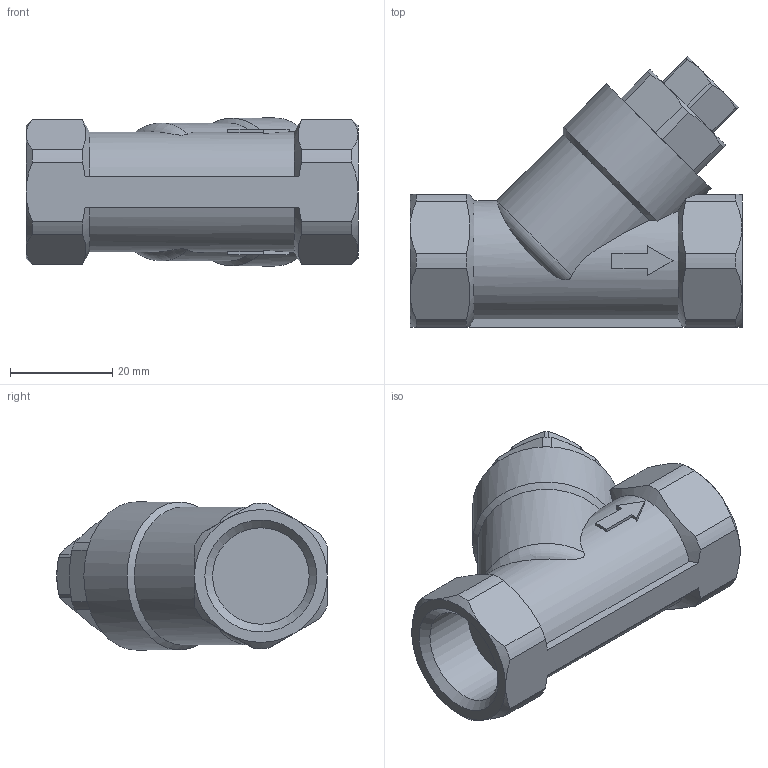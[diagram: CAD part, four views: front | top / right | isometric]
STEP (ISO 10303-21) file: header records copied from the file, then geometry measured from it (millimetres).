
FILE_DESCRIPTION (( 'STEP AP203' ), '1' );
FILE_NAME ('10.000.015.0.STEP', '2018-10-16T14:56:06', ( 'dell2' ), ( 'Microsoft' ), 'SwSTEP 2.0', 'SolidWorks 2014', '' );
FILE_SCHEMA (( 'CONFIG_CONTROL_DESIGN' ));
Length unit declared in the file: millimetre
Products named in the file (1): 10.000.015.0
Bounding box: 65 x 52.95 x 29 mm (x, y, z)
Volume: 42536.3 mm3; surface area: 10612.1 mm2
Topology: 2 solids, 2 shells, 110 faces, 276 edges, 175 vertices
Faces by surface type: plane 48, cone 30, cylinder 30, torus 2
Full cylindrical faces by diameter (mm): 18.9 x2, 29 x1
Entity records: 3764 total; most frequent: CARTESIAN_POINT 1178, ORIENTED_EDGE 540, DIRECTION 500, EDGE_CURVE 270, AXIS2_PLACEMENT_3D 202, VERTEX_POINT 174, EDGE_LOOP 120, FACE_OUTER_BOUND 112
